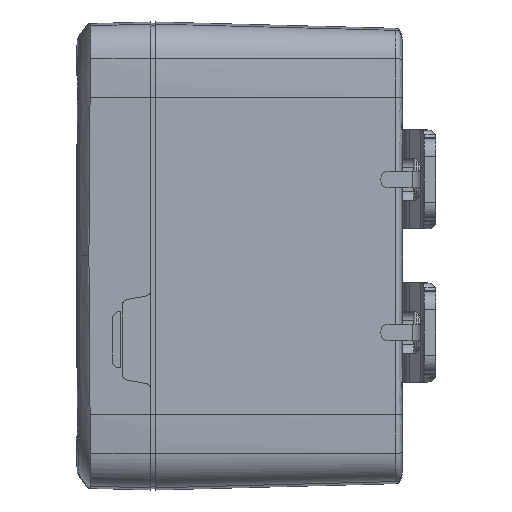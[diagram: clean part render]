
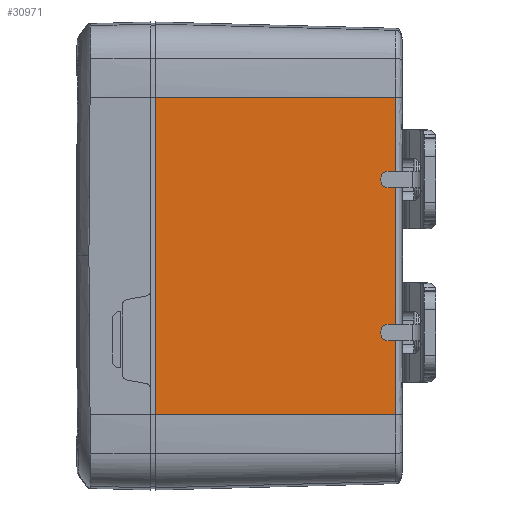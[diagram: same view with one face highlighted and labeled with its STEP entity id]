
A CAD part, left-side view. The second image highlights one B-rep face of the part: STEP entity #30971.
In plain terms, the highlighted planar face has unit normal (-1, -0.026, 0).
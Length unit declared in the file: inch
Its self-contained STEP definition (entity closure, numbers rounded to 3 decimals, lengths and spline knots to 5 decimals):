
#2346 = VERTEX_POINT ( 'NONE', #67769 ) ;
#5110 = ORIENTED_EDGE ( 'NONE', *, *, #5252, .F. ) ;
#5252 = EDGE_CURVE ( 'NONE', #2346, #14629, #40256, .T. ) ;
#7262 = DIRECTION ( 'NONE',  ( 0.026, -1., 0. ) ) ;
#8159 = VECTOR ( 'NONE', #78739, 39.37008 ) ;
#14629 = VERTEX_POINT ( 'NONE', #68438 ) ;
#14827 = CARTESIAN_POINT ( 'NONE',  ( -1.625, 1.715, -1.10211 ) ) ;
#14918 = EDGE_CURVE ( 'NONE', #16174, #2346, #46764, .T. ) ;
#16174 = VERTEX_POINT ( 'NONE', #14827 ) ;
#17856 = VECTOR ( 'NONE', #7262, 39.37008 ) ;
#20286 = ORIENTED_EDGE ( 'NONE', *, *, #55426, .T. ) ;
#21068 = CARTESIAN_POINT ( 'NONE',  ( -1.58131, 0.04673, -1.10211 ) ) ;
#28142 = CARTESIAN_POINT ( 'NONE',  ( -1.625, 1.715, -1.10211 ) ) ;
#30971 = ADVANCED_FACE ( 'Face2', ( #71841 ), #48121, .T. ) ;
#33577 = CARTESIAN_POINT ( 'NONE',  ( -1.58131, 0.04673, 0.36737 ) ) ;
#40256 = LINE ( 'NONE', #91958, #17856 ) ;
#40764 = CARTESIAN_POINT ( 'NONE',  ( -1.625, 1.715, -1.10211 ) ) ;
#46764 = LINE ( 'NONE', #28142, #8159 ) ;
#47035 = CARTESIAN_POINT ( 'NONE',  ( -1.625, 1.715, -1.10211 ) ) ;
#48121 = PLANE ( 'NONE',  #67600 ) ;
#55426 = EDGE_CURVE ( 'NONE', #16174, #83426, #64450, .T. ) ;
#60836 = ORIENTED_EDGE ( 'NONE', *, *, #14918, .F. ) ;
#64450 = LINE ( 'NONE', #40764, #87850 ) ;
#67600 = AXIS2_PLACEMENT_3D ( 'NONE', #47035, #90463, #88306 ) ;
#67769 = CARTESIAN_POINT ( 'NONE',  ( -1.625, 1.715, 1.10211 ) ) ;
#68438 = CARTESIAN_POINT ( 'NONE',  ( -1.58131, 0.04673, 1.10211 ) ) ;
#71841 = FACE_OUTER_BOUND ( 'NONE', #102470, .T. ) ;
#78739 = DIRECTION ( 'NONE',  ( 0., 0., 1. ) ) ;
#82535 = CARTESIAN_POINT ( 'NONE',  ( -1.58131, 0.04673, -0.36737 ) ) ;
#83426 = VERTEX_POINT ( 'NONE', #21068 ) ;
#87850 = VECTOR ( 'NONE', #99103, 39.37008 ) ;
#88306 = DIRECTION ( 'NONE',  ( 0.026, -1., 0. ) ) ;
#88472 = ORIENTED_EDGE ( 'NONE', *, *, #95006, .T. ) ;
#90463 = DIRECTION ( 'NONE',  ( -1., -0.026, 0. ) ) ;
#91958 = CARTESIAN_POINT ( 'NONE',  ( -1.625, 1.715, 1.10211 ) ) ;
#92386 = CARTESIAN_POINT ( 'NONE',  ( -1.58131, 0.04673, 1.10211 ) ) ;
#93486 = CARTESIAN_POINT ( 'NONE',  ( -1.58131, 0.04673, -1.10211 ) ) ;
#95006 = EDGE_CURVE ( 'NONE', #83426, #14629, #100357, .T. ) ;
#99103 = DIRECTION ( 'NONE',  ( 0.026, -1., 0. ) ) ;
#100357 = B_SPLINE_CURVE_WITH_KNOTS ( 'NONE', 3,
 ( #93486, #82535, #33577, #92386 ),
 .UNSPECIFIED., .F., .F.,
 ( 4, 4 ),
 ( 0., 1. ),
 .UNSPECIFIED. ) ;
#102470 = EDGE_LOOP ( 'NONE', ( #20286, #88472, #5110, #60836 ) ) ;
